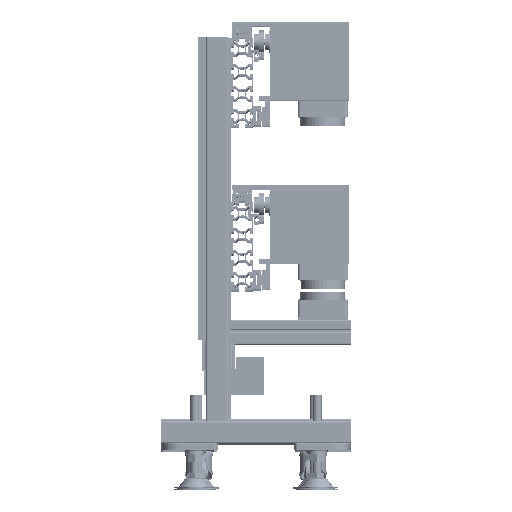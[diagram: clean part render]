
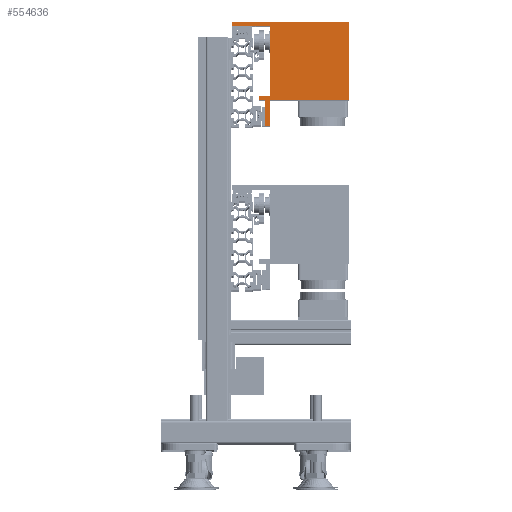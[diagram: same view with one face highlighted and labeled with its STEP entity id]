
A CAD part, top view. The second image highlights one B-rep face of the part: STEP entity #554636.
In plain terms, the highlighted planar face has unit normal (0, 0, 1).
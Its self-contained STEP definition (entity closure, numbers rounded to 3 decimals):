
#21823 = LINE ( 'NONE', #312658, #299040 ) ;
#23188 = VECTOR ( 'NONE', #162329, 1000. ) ;
#25771 = CARTESIAN_POINT ( 'NONE',  ( 0., -141., 295. ) ) ;
#33810 = PLANE ( 'NONE',  #204535 ) ;
#37658 = LINE ( 'NONE', #465240, #166520 ) ;
#59316 = ORIENTED_EDGE ( 'NONE', *, *, #474507, .F. ) ;
#62992 = CARTESIAN_POINT ( 'NONE',  ( 48., 0., 295. ) ) ;
#66841 = VERTEX_POINT ( 'NONE', #475669 ) ;
#70007 = DIRECTION ( 'NONE',  ( 0., -1., 0. ) ) ;
#82368 = DIRECTION ( 'NONE',  ( 0., -1., 0. ) ) ;
#82787 = VERTEX_POINT ( 'NONE', #257006 ) ;
#90731 = CARTESIAN_POINT ( 'NONE',  ( 0., 0., 295. ) ) ;
#96950 = CARTESIAN_POINT ( 'NONE',  ( 0., 0., 295. ) ) ;
#97426 = VECTOR ( 'NONE', #70007, 1000. ) ;
#98780 = CARTESIAN_POINT ( 'NONE',  ( 210., 0., 295. ) ) ;
#100987 = VERTEX_POINT ( 'NONE', #302591 ) ;
#103312 = DIRECTION ( 'NONE',  ( -1., 0., 0. ) ) ;
#107918 = LINE ( 'NONE', #228820, #587418 ) ;
#112979 = VERTEX_POINT ( 'NONE', #166056 ) ;
#130551 = VECTOR ( 'NONE', #546222, 1000. ) ;
#137091 = CARTESIAN_POINT ( 'NONE',  ( 69., -133., 295. ) ) ;
#162329 = DIRECTION ( 'NONE',  ( -1., 0., 0. ) ) ;
#166056 = CARTESIAN_POINT ( 'NONE',  ( 0., -8., 295. ) ) ;
#166520 = VECTOR ( 'NONE', #244462, 1000. ) ;
#167565 = EDGE_CURVE ( 'NONE', #223220, #112979, #478806, .T. ) ;
#197706 = DIRECTION ( 'NONE',  ( 0., 0., 1. ) ) ;
#204535 = AXIS2_PLACEMENT_3D ( 'NONE', #90731, #197706, #307941 ) ;
#207058 = DIRECTION ( 'NONE',  ( 0., -1., 0. ) ) ;
#207149 = LINE ( 'NONE', #370824, #488712 ) ;
#223220 = VERTEX_POINT ( 'NONE', #96950 ) ;
#228820 = CARTESIAN_POINT ( 'NONE',  ( 60.5, -187.5, 295. ) ) ;
#241869 = VECTOR ( 'NONE', #570746, 1000. ) ;
#242255 = LINE ( 'NONE', #686898, #590046 ) ;
#244462 = DIRECTION ( 'NONE',  ( 1., 0., 0. ) ) ;
#254832 = VERTEX_POINT ( 'NONE', #98780 ) ;
#257006 = CARTESIAN_POINT ( 'NONE',  ( 48., -141., 295. ) ) ;
#257917 = EDGE_CURVE ( 'NONE', #254832, #700832, #207149, .T. ) ;
#263688 = LINE ( 'NONE', #648138, #611908 ) ;
#267589 = ORIENTED_EDGE ( 'NONE', *, *, #319924, .T. ) ;
#270371 = EDGE_CURVE ( 'NONE', #593506, #683230, #417117, .T. ) ;
#283666 = LINE ( 'NONE', #62992, #97426 ) ;
#285657 = ORIENTED_EDGE ( 'NONE', *, *, #450279, .T. ) ;
#290438 = ORIENTED_EDGE ( 'NONE', *, *, #562215, .T. ) ;
#292955 = LINE ( 'NONE', #25771, #241869 ) ;
#293635 = CARTESIAN_POINT ( 'NONE',  ( 69., 0., 295. ) ) ;
#293813 = EDGE_CURVE ( 'NONE', #700832, #66841, #292955, .T. ) ;
#299040 = VECTOR ( 'NONE', #82368, 1000. ) ;
#300872 = FACE_OUTER_BOUND ( 'NONE', #333658, .T. ) ;
#301162 = EDGE_CURVE ( 'NONE', #482582, #82787, #283666, .T. ) ;
#302591 = CARTESIAN_POINT ( 'NONE',  ( 68.5, -187.5, 295. ) ) ;
#307941 = DIRECTION ( 'NONE',  ( 1., 0., 0. ) ) ;
#312658 = CARTESIAN_POINT ( 'NONE',  ( 68.5, -141., 295. ) ) ;
#313829 = CARTESIAN_POINT ( 'NONE',  ( 60.5, -141., 295. ) ) ;
#318984 = CARTESIAN_POINT ( 'NONE',  ( 0., -133., 295. ) ) ;
#319924 = EDGE_CURVE ( 'NONE', #683230, #100987, #107918, .T. ) ;
#322858 = VERTEX_POINT ( 'NONE', #593683 ) ;
#333658 = EDGE_LOOP ( 'NONE', ( #290438, #660419, #511397, #403216, #267589, #59316, #676056, #672585, #401864, #483782, #285657, #452514 ) ) ;
#370824 = CARTESIAN_POINT ( 'NONE',  ( 210., 0., 295. ) ) ;
#390656 = VERTEX_POINT ( 'NONE', #137091 ) ;
#401864 = ORIENTED_EDGE ( 'NONE', *, *, #626621, .F. ) ;
#403216 = ORIENTED_EDGE ( 'NONE', *, *, #270371, .T. ) ;
#415364 = CARTESIAN_POINT ( 'NONE',  ( 60.5, -187.5, 295. ) ) ;
#417117 = LINE ( 'NONE', #313829, #525109 ) ;
#432931 = LINE ( 'NONE', #318984, #23188 ) ;
#450279 = EDGE_CURVE ( 'NONE', #112979, #322858, #37658, .T. ) ;
#452514 = ORIENTED_EDGE ( 'NONE', *, *, #660426, .T. ) ;
#463470 = CARTESIAN_POINT ( 'NONE',  ( 48., -133., 295. ) ) ;
#465240 = CARTESIAN_POINT ( 'NONE',  ( 0., -8., 295. ) ) ;
#474507 = EDGE_CURVE ( 'NONE', #66841, #100987, #21823, .T. ) ;
#475669 = CARTESIAN_POINT ( 'NONE',  ( 68.5, -141., 295. ) ) ;
#478806 = LINE ( 'NONE', #695642, #130551 ) ;
#482582 = VERTEX_POINT ( 'NONE', #463470 ) ;
#483782 = ORIENTED_EDGE ( 'NONE', *, *, #167565, .T. ) ;
#488712 = VECTOR ( 'NONE', #588151, 1000. ) ;
#508954 = VECTOR ( 'NONE', #624720, 1000. ) ;
#511397 = ORIENTED_EDGE ( 'NONE', *, *, #560835, .F. ) ;
#525109 = VECTOR ( 'NONE', #207058, 1000. ) ;
#546222 = DIRECTION ( 'NONE',  ( 0., -1., 0. ) ) ;
#549413 = DIRECTION ( 'NONE',  ( 1., 0., 0. ) ) ;
#554636 = ADVANCED_FACE ( 'NONE', ( #300872 ), #33810, .T. ) ;
#560835 = EDGE_CURVE ( 'NONE', #593506, #82787, #263688, .T. ) ;
#562215 = EDGE_CURVE ( 'NONE', #390656, #482582, #432931, .T. ) ;
#570746 = DIRECTION ( 'NONE',  ( -1., 0., 0. ) ) ;
#587418 = VECTOR ( 'NONE', #549413, 1000. ) ;
#588151 = DIRECTION ( 'NONE',  ( 0., -1., 0. ) ) ;
#590046 = VECTOR ( 'NONE', #619631, 1000. ) ;
#593506 = VERTEX_POINT ( 'NONE', #633462 ) ;
#593683 = CARTESIAN_POINT ( 'NONE',  ( 69., -8., 295. ) ) ;
#611908 = VECTOR ( 'NONE', #103312, 1000. ) ;
#619631 = DIRECTION ( 'NONE',  ( 1., 0., 0. ) ) ;
#624720 = DIRECTION ( 'NONE',  ( 0., -1., 0. ) ) ;
#626621 = EDGE_CURVE ( 'NONE', #223220, #254832, #242255, .T. ) ;
#633462 = CARTESIAN_POINT ( 'NONE',  ( 60.5, -141., 295. ) ) ;
#648138 = CARTESIAN_POINT ( 'NONE',  ( 0., -141., 295. ) ) ;
#660419 = ORIENTED_EDGE ( 'NONE', *, *, #301162, .T. ) ;
#660426 = EDGE_CURVE ( 'NONE', #322858, #390656, #681426, .T. ) ;
#672585 = ORIENTED_EDGE ( 'NONE', *, *, #257917, .F. ) ;
#676056 = ORIENTED_EDGE ( 'NONE', *, *, #293813, .F. ) ;
#680388 = CARTESIAN_POINT ( 'NONE',  ( 210., -141., 295. ) ) ;
#681426 = LINE ( 'NONE', #293635, #508954 ) ;
#683230 = VERTEX_POINT ( 'NONE', #415364 ) ;
#686898 = CARTESIAN_POINT ( 'NONE',  ( 0., 0., 295. ) ) ;
#695642 = CARTESIAN_POINT ( 'NONE',  ( 0., 0., 295. ) ) ;
#700832 = VERTEX_POINT ( 'NONE', #680388 ) ;
